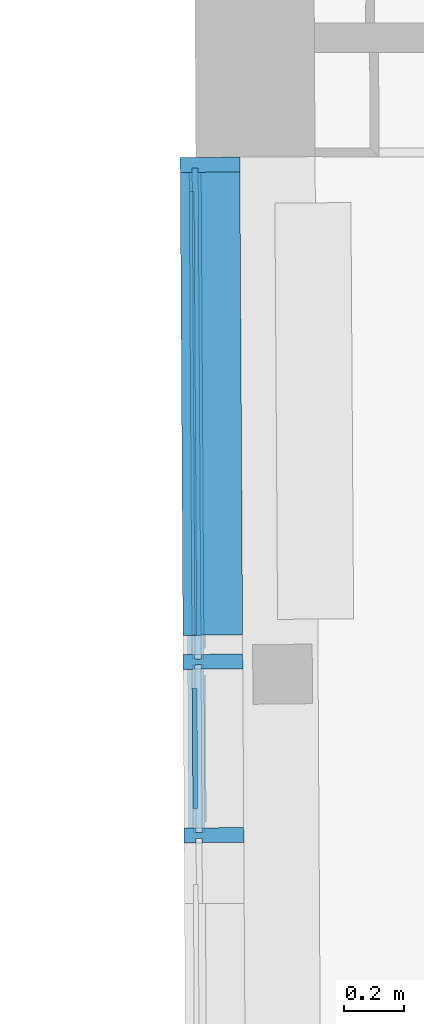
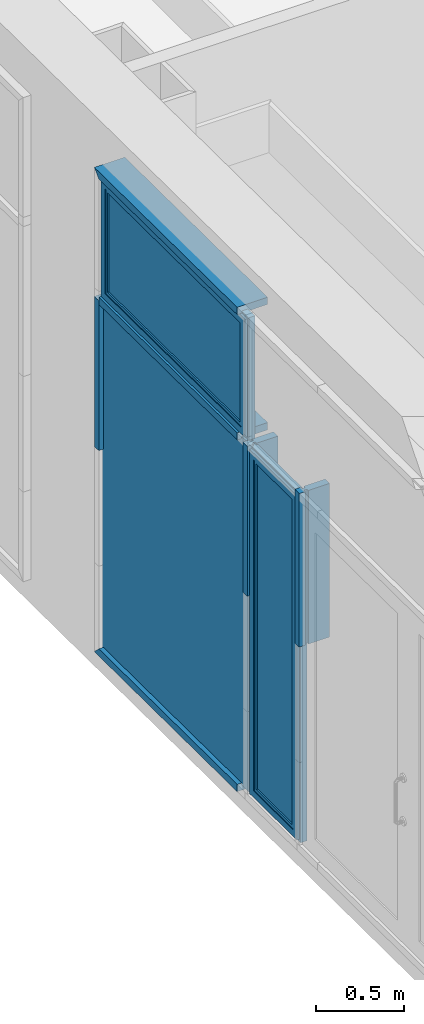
# One storey, part 123 of 196: 11 building element parts, 1 element without a shape of its own.
"""IFC2X3 building model written with IfcOpenShell, lengths in metres."""

from ifc_helpers import new_model, entity, si_unit, converted_unit, derived_unit, money_unit, direction, frame, origin_with_axes, place, context, subcontext, project, spatial, faceted_brep, material, type_object, element, aggregate, save


model = new_model("IFC2X3")

# Units and contexts
model_context = context("Model", 3, precision=1e-05, world=origin_with_axes(), true_north=direction((0.0, 1.0)))
body_context = subcontext(model_context, "Body", "Model", "MODEL_VIEW")
ifc_project = project(units=[si_unit("LENGTHUNIT", "METRE"), si_unit("AREAUNIT", "SQUARE_METRE"), si_unit("VOLUMEUNIT", "CUBIC_METRE"), converted_unit("PLANEANGLEUNIT", "DEGREE", entity("IfcPlaneAngleMeasure", 0.0174532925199), si_unit("PLANEANGLEUNIT", "RADIAN"), dimensions=[0, 0, 0, 0, 0, 0, 0]), money_unit("EUR"), converted_unit("TIMEUNIT", "Year", entity("IfcTimeMeasure", 31556926.0), si_unit("TIMEUNIT", "SECOND"), dimensions=[0, 0, 1, 0, 0, 0, 0]), si_unit("MASSUNIT", "GRAM", prefix="KILO"), si_unit("THERMODYNAMICTEMPERATUREUNIT", "DEGREE_CELSIUS"), si_unit("LUMINOUSINTENSITYUNIT", "LUMEN"), si_unit("ENERGYUNIT", "JOULE", prefix="MEGA"), derived_unit("THERMALCONDUCTANCEUNIT", [(si_unit("POWERUNIT", "WATT"), 1), (si_unit("LENGTHUNIT", "METRE"), -1), (si_unit("THERMODYNAMICTEMPERATUREUNIT", "KELVIN"), -1)]), derived_unit("SPECIFICHEATCAPACITYUNIT", [(si_unit("ENERGYUNIT", "JOULE"), 1), (si_unit("MASSUNIT", "GRAM", prefix="KILO"), -1), (si_unit("THERMODYNAMICTEMPERATUREUNIT", "KELVIN"), -1)]), derived_unit("MASSDENSITYUNIT", [(si_unit("MASSUNIT", "GRAM", prefix="KILO"), 1), (si_unit("VOLUMEUNIT", "CUBIC_METRE"), -1)])], contexts=[model_context])

# Site, building, storey
site_placement = place(None, origin_with_axes())
site = spatial("IfcSite", under=ifc_project, at=site_placement, Name="Gelände", CompositionType="ELEMENT")
building_placement = place(site_placement, origin_with_axes())
building = spatial("IfcBuilding", under=site, at=building_placement, Name="Gebäude", CompositionType="ELEMENT")
storey_placement = place(building_placement, frame((0.0, 0.0, -3.0), z_axis=(0.0, 0.0, 1.0), x_axis=(1.0, 0.0, 0.0)))
storey = spatial("IfcBuildingStorey", under=building, at=storey_placement, Name="KELLERGESCHOSS", CompositionType="ELEMENT", Elevation=-3.0)

# Proxy, building element parts
building_element_proxy_type = type_object("IfcBuildingElementProxyType", Name="Fassadentyp", PredefinedType="NOTDEFINED")
proxy_placement = place(storey_placement, frame((-34.8766751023, 40.9954775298, 0.421025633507), z_axis=(0.0, 0.0, 1.0), x_axis=(1.0, 0.0, 0.0)))
proxy = element("IfcBuildingElementProxy", 1, at=proxy_placement, inside=storey, type_object=building_element_proxy_type, Name="Fassade-002")
ifc_material_1 = material(Name="53_Metall, Aluminium")
building_element_part_1_placement = place(proxy_placement, origin_with_axes())
building_element_part_1 = element("IfcBuildingElementPart", 2, at=building_element_part_1_placement, material=ifc_material_1, Name="53_Metall, Aluminium", context=body_context, shape_type="Brep", body=[
    faceted_brep([(-0.0510996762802, 3.59758008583, 2.48264331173), (-0.0416166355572, 1.98064377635, 2.48264331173), (-0.0466165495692, 1.98061445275, 2.48264331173), (-0.0560995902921, 3.59755076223, 2.48264331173), (-0.0508357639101, 3.55258085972, 2.52764331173), (-0.0418805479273, 2.02564300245, 2.52764331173), (-0.0468804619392, 2.02561367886, 2.52764331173), (-0.055835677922, 3.55255153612, 2.52764331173)], [[[0, 1, 2, 3]], [[0, 4, 5, 1]], [[1, 5, 6, 2]], [[3, 2, 6, 7]], [[4, 0, 3, 7]], [[5, 4, 7, 6]]]),
    faceted_brep([(-0.0416166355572, 1.98064377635, 2.48264331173), (-0.0416166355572, 1.98064377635, 3.29999988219), (-0.0466165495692, 1.98061445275, 3.29999988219), (-0.0466165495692, 1.98061445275, 2.48264331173), (-0.0418805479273, 2.02564300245, 2.52764331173), (-0.0418805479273, 2.02564300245, 3.25499988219), (-0.0468804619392, 2.02561367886, 3.25499988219), (-0.0468804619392, 2.02561367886, 2.52764331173)], [[[0, 1, 2, 3]], [[0, 4, 5, 1]], [[1, 5, 6, 2]], [[3, 2, 6, 7]], [[4, 0, 3, 7]], [[5, 4, 7, 6]]]),
    faceted_brep([(-0.0510996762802, 3.59758008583, 3.29999988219), (-0.0508357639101, 3.55258085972, 3.25499988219), (-0.055835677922, 3.55255153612, 3.25499988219), (-0.0560995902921, 3.59755076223, 3.29999988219), (-0.0416166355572, 1.98064377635, 3.29999988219), (-0.0418805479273, 2.02564300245, 3.25499988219), (-0.0468804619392, 2.02561367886, 3.25499988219), (-0.0466165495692, 1.98061445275, 3.29999988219)], [[[0, 1, 2, 3]], [[0, 4, 5, 1]], [[1, 5, 6, 2]], [[3, 2, 6, 7]], [[4, 0, 3, 7]], [[5, 4, 7, 6]]]),
    faceted_brep([(-0.0510996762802, 3.59758008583, 2.48264331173), (-0.0508357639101, 3.55258085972, 2.52764331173), (-0.055835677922, 3.55255153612, 2.52764331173), (-0.0560995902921, 3.59755076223, 2.48264331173), (-0.0510996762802, 3.59758008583, 3.29999988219), (-0.0508357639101, 3.55258085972, 3.25499988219), (-0.055835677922, 3.55255153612, 3.25499988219), (-0.0560995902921, 3.59755076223, 3.29999988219)], [[[0, 1, 2, 3]], [[0, 4, 5, 1]], [[1, 5, 6, 2]], [[3, 2, 6, 7]], [[4, 0, 3, 7]], [[5, 4, 7, 6]]]),
    faceted_brep([(-0.00110053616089, 3.59787332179, 2.48264331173), (0.00838250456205, 1.98093701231, 2.48264331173), (-0.0416166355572, 1.98064377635, 2.48264331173), (-0.0510996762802, 3.59758008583, 2.48264331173), (-0.000983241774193, 3.57787366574, 2.50264331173), (0.00826521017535, 2.00093666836, 2.50264331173), (-0.0417339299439, 2.00064343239, 2.50264331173), (-0.0509823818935, 3.57758042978, 2.50264331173)], [[[0, 1, 2, 3]], [[0, 4, 5, 1]], [[1, 5, 6, 2]], [[3, 2, 6, 7]], [[4, 0, 3, 7]], [[5, 4, 7, 6]]]),
    faceted_brep([(0.00838250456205, 1.98093701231, 2.48264331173), (0.00838250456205, 1.98093701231, 3.29999988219), (-0.0416166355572, 1.98064377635, 3.29999988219), (-0.0416166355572, 1.98064377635, 2.48264331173), (0.00826521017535, 2.00093666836, 2.50264331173), (0.00826521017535, 2.00093666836, 3.27999988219), (-0.0417339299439, 2.00064343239, 3.27999988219), (-0.0417339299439, 2.00064343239, 2.50264331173)], [[[0, 1, 2, 3]], [[0, 4, 5, 1]], [[1, 5, 6, 2]], [[3, 2, 6, 7]], [[4, 0, 3, 7]], [[5, 4, 7, 6]]]),
    faceted_brep([(-0.00110053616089, 3.59787332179, 3.29999988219), (-0.000983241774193, 3.57787366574, 3.27999988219), (-0.0509823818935, 3.57758042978, 3.27999988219), (-0.0510996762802, 3.59758008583, 3.29999988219), (0.00838250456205, 1.98093701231, 3.29999988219), (0.00826521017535, 2.00093666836, 3.27999988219), (-0.0417339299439, 2.00064343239, 3.27999988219), (-0.0416166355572, 1.98064377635, 3.29999988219)], [[[0, 1, 2, 3]], [[0, 4, 5, 1]], [[1, 5, 6, 2]], [[3, 2, 6, 7]], [[4, 0, 3, 7]], [[5, 4, 7, 6]]]),
    faceted_brep([(-0.00110053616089, 3.59787332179, 2.48264331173), (-0.000983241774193, 3.57787366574, 2.50264331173), (-0.0509823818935, 3.57758042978, 2.50264331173), (-0.0510996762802, 3.59758008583, 2.48264331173), (-0.00110053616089, 3.59787332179, 3.29999988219), (-0.000983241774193, 3.57787366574, 3.27999988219), (-0.0509823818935, 3.57758042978, 3.27999988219), (-0.0510996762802, 3.59758008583, 3.29999988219)], [[[0, 1, 2, 3]], [[0, 4, 5, 1]], [[1, 5, 6, 2]], [[3, 2, 6, 7]], [[4, 0, 3, 7]], [[5, 4, 7, 6]]]),
    faceted_brep([(-0.00118850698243, 3.6128730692, 2.46764333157), (0.00847047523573, 1.96593729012, 2.46764333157), (-0.0315288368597, 1.96570270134, 2.46764333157), (-0.0411878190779, 3.61263848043, 2.46764333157), (-0.00110053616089, 3.59787332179, 2.48264331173), (0.00838250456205, 1.98093701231, 2.48264331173), (-0.0316168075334, 1.98070242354, 2.48264331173), (-0.0410998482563, 3.59763873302, 2.48264331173)], [[[0, 1, 2, 3]], [[0, 4, 5, 1]], [[1, 5, 6, 2]], [[3, 2, 6, 7]], [[4, 0, 3, 7]], [[5, 4, 7, 6]]]),
    faceted_brep([(0.00847047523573, 1.96593729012, 2.46764333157), (0.00847047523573, 1.96593729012, 3.31499988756), (-0.0315288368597, 1.96570270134, 3.31499988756), (-0.0315288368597, 1.96570270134, 2.46764333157), (0.00838250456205, 1.98093701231, 2.48264331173), (0.00838250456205, 1.98093701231, 3.29999988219), (-0.0316168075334, 1.98070242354, 3.29999988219), (-0.0316168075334, 1.98070242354, 2.48264331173)], [[[0, 1, 2, 3]], [[0, 4, 5, 1]], [[1, 5, 6, 2]], [[3, 2, 6, 7]], [[4, 0, 3, 7]], [[5, 4, 7, 6]]]),
    faceted_brep([(0.00847047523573, 1.96593729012, 3.31499988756), (-0.00118850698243, 3.6128730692, 3.31499988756), (-0.0411878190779, 3.61263848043, 3.31499988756), (-0.0315288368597, 1.96570270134, 3.31499988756), (0.00838250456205, 1.98093701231, 3.29999988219), (-0.00110053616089, 3.59787332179, 3.29999988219), (-0.0410998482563, 3.59763873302, 3.29999988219), (-0.0316168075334, 1.98070242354, 3.29999988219)], [[[0, 1, 2, 3]], [[0, 4, 5, 1]], [[1, 5, 6, 2]], [[3, 2, 6, 7]], [[4, 0, 3, 7]], [[5, 4, 7, 6]]]),
    faceted_brep([(-0.00118850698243, 3.6128730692, 3.31499988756), (-0.00118850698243, 3.6128730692, 2.46764333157), (-0.0411878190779, 3.61263848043, 2.46764333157), (-0.0411878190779, 3.61263848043, 3.31499988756), (-0.00110053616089, 3.59787332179, 3.29999988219), (-0.00110053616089, 3.59787332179, 2.48264331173), (-0.0410998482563, 3.59763873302, 2.48264331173), (-0.0410998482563, 3.59763873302, 3.29999988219)], [[[0, 1, 2, 3]], [[0, 4, 5, 1]], [[1, 5, 6, 2]], [[3, 2, 6, 7]], [[4, 0, 3, 7]], [[5, 4, 7, 6]]]),
    faceted_brep([(-0.0507184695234, 3.53258120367, 2.54764331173), (0.0042805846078, 3.53290376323, 2.54764331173), (0.0042805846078, 3.53290376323, 3.23499988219), (-0.0507184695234, 3.53258120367, 3.23499988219), (-0.0509823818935, 3.57758042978, 2.50264331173), (0.00401667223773, 3.57790298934, 2.50264331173), (0.00401667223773, 3.57790298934, 3.27999988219), (-0.0509823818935, 3.57758042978, 3.27999988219)], [[[0, 1, 2, 3]], [[4, 5, 1, 0]], [[1, 5, 6, 2]], [[3, 2, 6, 7]], [[0, 3, 7, 4]], [[7, 6, 5, 4]]]),
    faceted_brep([(-0.0417339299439, 2.00064343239, 2.50264331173), (0.0132651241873, 2.00096599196, 2.50264331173), (0.0132651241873, 2.00096599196, 3.27999988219), (-0.0417339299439, 2.00064343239, 3.27999988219), (-0.041997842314, 2.0456426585, 2.54764331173), (0.0130012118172, 2.04596521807, 2.54764331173), (0.0130012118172, 2.04596521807, 3.23499988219), (-0.041997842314, 2.0456426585, 3.23499988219)], [[[0, 1, 2, 3]], [[4, 5, 1, 0]], [[1, 5, 6, 2]], [[3, 2, 6, 7]], [[0, 3, 7, 4]], [[7, 6, 5, 4]]]),
    faceted_brep([(-0.0417339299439, 2.00064343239, 2.50264331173), (0.0132651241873, 2.00096599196, 2.50264331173), (0.0130012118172, 2.04596521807, 2.54764331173), (-0.041997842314, 2.0456426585, 2.54764331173), (-0.0509823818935, 3.57758042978, 2.50264331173), (0.00401667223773, 3.57790298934, 2.50264331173), (0.0042805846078, 3.53290376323, 2.54764331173), (-0.0507184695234, 3.53258120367, 2.54764331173)], [[[0, 1, 2, 3]], [[4, 5, 1, 0]], [[1, 5, 6, 2]], [[3, 2, 6, 7]], [[0, 3, 7, 4]], [[7, 6, 5, 4]]]),
    faceted_brep([(-0.0509823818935, 3.57758042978, 3.27999988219), (0.00401667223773, 3.57790298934, 3.27999988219), (0.0042805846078, 3.53290376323, 3.23499988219), (-0.0507184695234, 3.53258120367, 3.23499988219), (-0.0417339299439, 2.00064343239, 3.27999988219), (0.0132651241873, 2.00096599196, 3.27999988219), (0.0130012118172, 2.04596521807, 3.23499988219), (-0.041997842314, 2.0456426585, 3.23499988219)], [[[0, 1, 2, 3]], [[4, 5, 1, 0]], [[1, 5, 6, 2]], [[3, 2, 6, 7]], [[0, 3, 7, 4]], [[7, 6, 5, 4]]]),
])
ifc_material_2 = material(Name="45_Glas, Normalglas")
building_element_part_2_placement = place(proxy_placement, origin_with_axes())
building_element_part_2 = element("IfcBuildingElementPart", 3, at=building_element_part_2_placement, material=ifc_material_2, Name="45_Glas, Normalglas", context=body_context, shape_type="Brep", body=[
    faceted_brep([(-0.0407186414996, 3.53263985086, 2.54764331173), (-0.0247189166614, 3.53273368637, 2.54764331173), (-0.015998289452, 2.0457951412, 2.54764331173), (-0.0319980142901, 2.0457013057, 2.54764331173), (-0.0407186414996, 3.53263985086, 3.23499988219), (-0.0247189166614, 3.53273368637, 3.23499988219), (-0.015998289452, 2.0457951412, 3.23499988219), (-0.0319980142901, 2.0457013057, 3.23499988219)], [[[0, 1, 2, 3]], [[4, 5, 1, 0]], [[1, 5, 6, 2]], [[3, 2, 6, 7]], [[0, 3, 7, 4]], [[7, 6, 5, 4]]]),
])
building_element_part_3_placement = place(proxy_placement, origin_with_axes())
building_element_part_3 = element("IfcBuildingElementPart", 4, at=building_element_part_3_placement, material=ifc_material_2, Name="45_Glas, Normalglas", context=body_context, shape_type="Brep", body=[
    faceted_brep([(0.00847047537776, 1.9659372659, 2.44764332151), (0.00800774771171, 2.04483613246, 2.44764332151), (-0.0319915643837, 2.04460154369, 2.44764332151), (-0.0315288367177, 1.96570267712, 2.44764332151), (0.00847047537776, 1.9659372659, 1.41999997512), (0.00847047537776, 1.9659372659, 0.619999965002), (0.00847047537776, 1.9659372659, 0.0349999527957), (0.00800774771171, 2.04483613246, 0.0349999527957), (-0.00118850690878, 3.61287305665, 0.0349999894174), (-0.00118850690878, 3.61287305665, 0.619999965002), (-0.00118850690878, 3.61287305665, 1.41999997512), (-0.00118850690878, 3.61287305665, 2.44764332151), (-0.0411878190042, 3.61263846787, 2.44764332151), (-0.0411878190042, 3.61263846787, 1.41999997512), (-0.0411878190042, 3.61263846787, 0.619999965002), (-0.0411878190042, 3.61263846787, 0.0349999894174), (-0.0319915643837, 2.04460154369, 0.0349999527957), (-0.0315288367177, 1.96570267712, 0.0349999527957), (-0.0315288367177, 1.96570267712, 0.619999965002), (-0.0315288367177, 1.96570267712, 1.41999997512)], [[[0, 1, 2, 3]], [[0, 4, 5, 6, 7, 8, 9, 10, 11, 1]], [[1, 11, 12, 2]], [[3, 2, 12, 13, 14, 15, 16, 17, 18, 19]], [[4, 0, 3, 19]], [[5, 4, 19, 18]], [[6, 5, 18, 17]], [[7, 6, 17, 16]], [[8, 7, 16, 15]], [[9, 8, 15, 14]], [[10, 9, 14, 13]], [[11, 10, 13, 12]]]),
])
building_element_part_4_placement = place(proxy_placement, origin_with_axes())
building_element_part_4 = element("IfcBuildingElementPart", 5, at=building_element_part_4_placement, material=ifc_material_1, Name="53_Metall, Aluminium", context=body_context, shape_type="Brep", body=[
    faceted_brep([(-0.0413233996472, 1.93064464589, 0.0499999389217), (-0.0382022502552, 1.39846304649, 0.0499999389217), (-0.0432021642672, 1.39843372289, 0.0499999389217), (-0.0463233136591, 1.93061532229, 0.0499999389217), (-0.0410594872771, 1.88564541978, 0.0949999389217), (-0.0384661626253, 1.44346227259, 0.0949999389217), (-0.0434660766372, 1.443432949, 0.0949999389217), (-0.046059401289, 1.88561609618, 0.0949999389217)], [[[0, 1, 2, 3]], [[0, 4, 5, 1]], [[1, 5, 6, 2]], [[3, 2, 6, 7]], [[4, 0, 3, 7]], [[5, 4, 7, 6]]]),
    faceted_brep([(-0.0382022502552, 1.39846304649, 0.0499999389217), (-0.0382022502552, 1.39846304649, 2.43264333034), (-0.0432021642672, 1.39843372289, 2.43264333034), (-0.0432021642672, 1.39843372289, 0.0499999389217), (-0.0384661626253, 1.44346227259, 0.0949999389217), (-0.0384661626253, 1.44346227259, 2.38764333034), (-0.0434660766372, 1.443432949, 2.38764333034), (-0.0434660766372, 1.443432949, 0.0949999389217)], [[[0, 1, 2, 3]], [[0, 4, 5, 1]], [[1, 5, 6, 2]], [[3, 2, 6, 7]], [[4, 0, 3, 7]], [[5, 4, 7, 6]]]),
    faceted_brep([(-0.0413233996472, 1.93064464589, 2.43264333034), (-0.0410594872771, 1.88564541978, 2.38764333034), (-0.046059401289, 1.88561609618, 2.38764333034), (-0.0463233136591, 1.93061532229, 2.43264333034), (-0.0382022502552, 1.39846304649, 2.43264333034), (-0.0384661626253, 1.44346227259, 2.38764333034), (-0.0434660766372, 1.443432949, 2.38764333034), (-0.0432021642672, 1.39843372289, 2.43264333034)], [[[0, 1, 2, 3]], [[0, 4, 5, 1]], [[1, 5, 6, 2]], [[3, 2, 6, 7]], [[4, 0, 3, 7]], [[5, 4, 7, 6]]]),
    faceted_brep([(-0.0413233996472, 1.93064464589, 0.0499999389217), (-0.0410594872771, 1.88564541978, 0.0949999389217), (-0.046059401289, 1.88561609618, 0.0949999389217), (-0.0463233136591, 1.93061532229, 0.0499999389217), (-0.0413233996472, 1.93064464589, 2.43264333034), (-0.0410594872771, 1.88564541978, 2.38764333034), (-0.046059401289, 1.88561609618, 2.38764333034), (-0.0463233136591, 1.93061532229, 2.43264333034)], [[[0, 1, 2, 3]], [[0, 4, 5, 1]], [[1, 5, 6, 2]], [[3, 2, 6, 7]], [[4, 0, 3, 7]], [[5, 4, 7, 6]]]),
    faceted_brep([(0.00867574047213, 1.93093788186, 0.0499999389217), (0.0117968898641, 1.39875628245, 0.0499999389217), (-0.0382022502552, 1.39846304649, 0.0499999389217), (-0.0413233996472, 1.93064464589, 0.0499999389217), (0.00879303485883, 1.91093822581, 0.0699999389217), (0.0116795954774, 1.4187559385, 0.0699999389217), (-0.0383195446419, 1.41846270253, 0.0699999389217), (-0.0412061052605, 1.91064498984, 0.0699999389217)], [[[0, 1, 2, 3]], [[0, 4, 5, 1]], [[1, 5, 6, 2]], [[3, 2, 6, 7]], [[4, 0, 3, 7]], [[5, 4, 7, 6]]]),
    faceted_brep([(0.0117968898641, 1.39875628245, 0.0499999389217), (0.0117968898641, 1.39875628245, 2.43264333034), (-0.0382022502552, 1.39846304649, 2.43264333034), (-0.0382022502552, 1.39846304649, 0.0499999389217), (0.0116795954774, 1.4187559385, 0.0699999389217), (0.0116795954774, 1.4187559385, 2.41264333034), (-0.0383195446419, 1.41846270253, 2.41264333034), (-0.0383195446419, 1.41846270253, 0.0699999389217)], [[[0, 1, 2, 3]], [[0, 4, 5, 1]], [[1, 5, 6, 2]], [[3, 2, 6, 7]], [[4, 0, 3, 7]], [[5, 4, 7, 6]]]),
    faceted_brep([(0.00867574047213, 1.93093788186, 2.43264333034), (0.00879303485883, 1.91093822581, 2.41264333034), (-0.0412061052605, 1.91064498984, 2.41264333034), (-0.0413233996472, 1.93064464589, 2.43264333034), (0.0117968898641, 1.39875628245, 2.43264333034), (0.0116795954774, 1.4187559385, 2.41264333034), (-0.0383195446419, 1.41846270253, 2.41264333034), (-0.0382022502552, 1.39846304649, 2.43264333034)], [[[0, 1, 2, 3]], [[0, 4, 5, 1]], [[1, 5, 6, 2]], [[3, 2, 6, 7]], [[4, 0, 3, 7]], [[5, 4, 7, 6]]]),
    faceted_brep([(0.00867574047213, 1.93093788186, 0.0499999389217), (0.00879303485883, 1.91093822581, 0.0699999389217), (-0.0412061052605, 1.91064498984, 0.0699999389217), (-0.0413233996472, 1.93064464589, 0.0499999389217), (0.00867574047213, 1.93093788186, 2.43264333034), (0.00879303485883, 1.91093822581, 2.41264333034), (-0.0412061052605, 1.91064498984, 2.41264333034), (-0.0413233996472, 1.93064464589, 2.43264333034)], [[[0, 1, 2, 3]], [[0, 4, 5, 1]], [[1, 5, 6, 2]], [[3, 2, 6, 7]], [[4, 0, 3, 7]], [[5, 4, 7, 6]]]),
    faceted_brep([(0.00858776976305, 1.94593761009, 0.0349999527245), (0.0118848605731, 1.38375655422, 0.0349999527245), (-0.0281144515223, 1.38352196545, 0.0349999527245), (-0.0314115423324, 1.94570302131, 0.0349999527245), (0.00867574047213, 1.93093788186, 0.0499999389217), (0.0117968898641, 1.39875628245, 0.0499999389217), (-0.0282024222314, 1.39852169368, 0.0499999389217), (-0.0313235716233, 1.93070329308, 0.0499999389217)], [[[0, 1, 2, 3]], [[0, 4, 5, 1]], [[1, 5, 6, 2]], [[3, 2, 6, 7]], [[4, 0, 3, 7]], [[5, 4, 7, 6]]]),
    faceted_brep([(0.0118848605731, 1.38375655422, 0.0349999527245), (0.0118848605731, 1.38375655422, 2.44764331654), (-0.0281144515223, 1.38352196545, 2.44764331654), (-0.0281144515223, 1.38352196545, 0.0349999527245), (0.0117968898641, 1.39875628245, 0.0499999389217), (0.0117968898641, 1.39875628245, 2.43264333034), (-0.0282024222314, 1.39852169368, 2.43264333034), (-0.0282024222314, 1.39852169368, 0.0499999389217)], [[[0, 1, 2, 3]], [[0, 4, 5, 1]], [[1, 5, 6, 2]], [[3, 2, 6, 7]], [[4, 0, 3, 7]], [[5, 4, 7, 6]]]),
    faceted_brep([(0.0118848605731, 1.38375655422, 2.44764331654), (0.00858776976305, 1.94593761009, 2.44764331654), (-0.0314115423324, 1.94570302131, 2.44764331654), (-0.0281144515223, 1.38352196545, 2.44764331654), (0.0117968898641, 1.39875628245, 2.43264333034), (0.00867574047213, 1.93093788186, 2.43264333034), (-0.0313235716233, 1.93070329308, 2.43264333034), (-0.0282024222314, 1.39852169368, 2.43264333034)], [[[0, 1, 2, 3]], [[0, 4, 5, 1]], [[1, 5, 6, 2]], [[3, 2, 6, 7]], [[4, 0, 3, 7]], [[5, 4, 7, 6]]]),
    faceted_brep([(0.00858776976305, 1.94593761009, 2.44764331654), (0.00858776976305, 1.94593761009, 0.0349999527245), (-0.0314115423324, 1.94570302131, 0.0349999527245), (-0.0314115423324, 1.94570302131, 2.44764331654), (0.00867574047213, 1.93093788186, 2.43264333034), (0.00867574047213, 1.93093788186, 0.0499999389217), (-0.0313235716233, 1.93070329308, 0.0499999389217), (-0.0313235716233, 1.93070329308, 2.43264333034)], [[[0, 1, 2, 3]], [[0, 4, 5, 1]], [[1, 5, 6, 2]], [[3, 2, 6, 7]], [[4, 0, 3, 7]], [[5, 4, 7, 6]]]),
    faceted_brep([(-0.0409421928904, 1.86564576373, 0.114999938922), (0.0140568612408, 1.8659683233, 0.114999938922), (0.0140568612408, 1.8659683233, 2.36764333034), (-0.0409421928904, 1.86564576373, 2.36764333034), (-0.0412061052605, 1.91064498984, 0.0699999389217), (0.0137929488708, 1.9109675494, 0.0699999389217), (0.0137929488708, 1.9109675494, 2.41264333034), (-0.0412061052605, 1.91064498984, 2.41264333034)], [[[0, 1, 2, 3]], [[4, 5, 1, 0]], [[1, 5, 6, 2]], [[3, 2, 6, 7]], [[0, 3, 7, 4]], [[7, 6, 5, 4]]]),
    faceted_brep([(-0.0383195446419, 1.41846270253, 0.0699999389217), (0.0166795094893, 1.4187852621, 0.0699999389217), (0.0166795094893, 1.4187852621, 2.41264333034), (-0.0383195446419, 1.41846270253, 2.41264333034), (-0.038583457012, 1.46346192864, 0.114999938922), (0.0164155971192, 1.46378448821, 0.114999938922), (0.0164155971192, 1.46378448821, 2.36764333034), (-0.038583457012, 1.46346192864, 2.36764333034)], [[[0, 1, 2, 3]], [[4, 5, 1, 0]], [[1, 5, 6, 2]], [[3, 2, 6, 7]], [[0, 3, 7, 4]], [[7, 6, 5, 4]]]),
    faceted_brep([(-0.0383195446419, 1.41846270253, 0.0699999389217), (0.0166795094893, 1.4187852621, 0.0699999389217), (0.0164155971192, 1.46378448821, 0.114999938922), (-0.038583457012, 1.46346192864, 0.114999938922), (-0.0412061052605, 1.91064498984, 0.0699999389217), (0.0137929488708, 1.9109675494, 0.0699999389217), (0.0140568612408, 1.8659683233, 0.114999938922), (-0.0409421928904, 1.86564576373, 0.114999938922)], [[[0, 1, 2, 3]], [[4, 5, 1, 0]], [[1, 5, 6, 2]], [[3, 2, 6, 7]], [[0, 3, 7, 4]], [[7, 6, 5, 4]]]),
    faceted_brep([(-0.0412061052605, 1.91064498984, 2.41264333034), (0.0137929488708, 1.9109675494, 2.41264333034), (0.0140568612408, 1.8659683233, 2.36764333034), (-0.0409421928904, 1.86564576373, 2.36764333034), (-0.0383195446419, 1.41846270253, 2.41264333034), (0.0166795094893, 1.4187852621, 2.41264333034), (0.0164155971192, 1.46378448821, 2.36764333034), (-0.038583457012, 1.46346192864, 2.36764333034)], [[[0, 1, 2, 3]], [[4, 5, 1, 0]], [[1, 5, 6, 2]], [[3, 2, 6, 7]], [[0, 3, 7, 4]], [[7, 6, 5, 4]]]),
])
building_element_part_5_placement = place(proxy_placement, origin_with_axes())
building_element_part_5 = element("IfcBuildingElementPart", 6, at=building_element_part_5_placement, material=ifc_material_2, Name="45_Glas, Normalglas", context=body_context, shape_type="Brep", body=[
    faceted_brep([(-0.0309423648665, 1.86570441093, 0.114999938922), (-0.0149426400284, 1.86579824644, 0.114999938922), (-0.01258390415, 1.46361441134, 0.114999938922), (-0.0285836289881, 1.46352057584, 0.114999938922), (-0.0309423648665, 1.86570441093, 2.36764333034), (-0.0149426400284, 1.86579824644, 2.36764333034), (-0.01258390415, 1.46361441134, 2.36764333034), (-0.0285836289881, 1.46352057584, 2.36764333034)], [[[0, 1, 2, 3]], [[4, 5, 1, 0]], [[1, 5, 6, 2]], [[3, 2, 6, 7]], [[0, 3, 7, 4]], [[7, 6, 5, 4]]]),
])
building_element_part_6_placement = place(proxy_placement, origin_with_axes())
building_element_part_6 = element("IfcBuildingElementPart", 7, at=building_element_part_6_placement, material=ifc_material_1, Name="53_Metall, Aluminium", context=body_context, shape_type="Brep", body=[
    faceted_brep([(0.00200232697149, 1.36369824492, 2.48264332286), (0.00209029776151, 1.34869850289, 2.48264332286), (0.142087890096, 1.34951956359, 2.48264332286), (0.141794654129, 1.39951870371, 2.48264332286), (0.00179706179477, 1.39869764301, 2.48264332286), (0.00188503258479, 1.38369790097, 2.48264332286), (-0.0181146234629, 1.38358060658, 2.48264332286), (-0.0182025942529, 1.39858034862, 2.48264332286), (-0.0582019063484, 1.39834575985, 2.48264332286), (-0.0579086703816, 1.34834661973, 2.48264332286), (-0.0179093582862, 1.3485812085, 2.48264332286), (-0.0179973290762, 1.36358095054, 2.48264332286), (0.00200232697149, 1.36369824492, 1.41999997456), (0.00209029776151, 1.34869850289, 1.41999997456), (0.142087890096, 1.34951956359, 1.41999997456), (0.141794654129, 1.39951870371, 1.41999997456), (0.00179706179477, 1.39869764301, 1.41999997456), (0.00188503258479, 1.38369790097, 1.41999997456), (-0.0181146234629, 1.38358060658, 1.41999997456), (-0.0182025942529, 1.39858034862, 1.41999997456), (-0.0582019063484, 1.39834575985, 1.41999997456), (-0.0579086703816, 1.34834661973, 1.41999997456), (-0.0179093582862, 1.3485812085, 1.41999997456), (-0.0179973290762, 1.36358095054, 1.41999997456)], [[[0, 1, 2, 3, 4, 5, 6, 7, 8, 9, 10, 11]], [[1, 0, 12, 13]], [[1, 13, 14, 2]], [[3, 2, 14, 15]], [[4, 3, 15, 16]], [[4, 16, 17, 5]], [[5, 17, 18, 6]], [[7, 6, 18, 19]], [[19, 20, 8, 7]], [[9, 8, 20, 21]], [[22, 10, 9, 21]], [[11, 10, 22, 23]], [[0, 11, 23, 12]], [[23, 22, 21, 20, 19, 18, 17, 16, 15, 14, 13, 12]]]),
])
building_element_part_7_placement = place(proxy_placement, origin_with_axes())
building_element_part_7 = element("IfcBuildingElementPart", 8, at=building_element_part_7_placement, material=ifc_material_1, Name="53_Metall, Aluminium", context=body_context, shape_type="Brep", body=[
    faceted_brep([(-0.0111883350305, 3.61281442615, 2.45764332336), (-0.0111003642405, 3.59781468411, 2.45764332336), (0.128897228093, 3.59863574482, 2.45764332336), (0.128603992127, 3.64863488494, 2.45764332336), (-0.0713925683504, 3.64746194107, 2.45764332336), (-0.0710993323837, 3.59746280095, 2.45764332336), (-0.0311000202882, 3.59769738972, 2.45764332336), (-0.0311879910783, 3.61269713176, 2.45764332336), (-0.0111883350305, 3.61281442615, 1.41999997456), (-0.0111003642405, 3.59781468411, 1.41999997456), (0.128897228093, 3.59863574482, 1.41999997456), (0.128603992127, 3.64863488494, 1.41999997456), (-0.0713925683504, 3.64746194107, 1.41999997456), (-0.0710993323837, 3.59746280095, 1.41999997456), (-0.0311000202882, 3.59769738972, 1.41999997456), (-0.0311879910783, 3.61269713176, 1.41999997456)], [[[0, 1, 2, 3, 4, 5, 6, 7]], [[0, 8, 9, 1]], [[9, 10, 2, 1]], [[10, 11, 3, 2]], [[11, 12, 4, 3]], [[12, 13, 5, 4]], [[6, 5, 13, 14]], [[14, 15, 7, 6]], [[7, 15, 8, 0]], [[8, 15, 14, 13, 12, 11, 10, 9]]]),
])
building_element_part_8_placement = place(proxy_placement, origin_with_axes())
building_element_part_8 = element("IfcBuildingElementPart", 9, at=building_element_part_8_placement, material=ifc_material_1, Name="53_Metall, Aluminium", context=body_context, shape_type="Brep", body=[
    faceted_brep([(-0.00141205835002, 1.94587897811, 2.45764332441), (-0.00132408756, 1.93087923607, 2.45764332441), (0.138673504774, 1.93170029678, 2.45764332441), (0.138380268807, 1.9816994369, 2.45764332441), (-0.00161732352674, 1.98087837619, 2.45764332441), (-0.00152935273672, 1.96587863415, 2.45764332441), (-0.0215290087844, 1.96576133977, 2.45764332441), (-0.0216169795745, 1.9807610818, 2.45764332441), (-0.0616162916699, 1.98052649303, 2.45764332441), (-0.0613230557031, 1.93052735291, 2.45764332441), (-0.0213237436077, 1.93076194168, 2.45764332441), (-0.0214117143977, 1.94576168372, 2.45764332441), (-0.00141205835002, 1.94587897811, 1.41999997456), (-0.00132408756, 1.93087923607, 1.41999997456), (0.138673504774, 1.93170029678, 1.41999997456), (0.138380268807, 1.9816994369, 1.41999997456), (-0.00161732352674, 1.98087837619, 1.41999997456), (-0.00152935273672, 1.96587863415, 1.41999997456), (-0.0215290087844, 1.96576133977, 1.41999997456), (-0.0216169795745, 1.9807610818, 1.41999997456), (-0.0616162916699, 1.98052649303, 1.41999997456), (-0.0613230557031, 1.93052735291, 1.41999997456), (-0.0213237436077, 1.93076194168, 1.41999997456), (-0.0214117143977, 1.94576168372, 1.41999997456)], [[[0, 1, 2, 3, 4, 5, 6, 7, 8, 9, 10, 11]], [[1, 0, 12, 13]], [[1, 13, 14, 2]], [[3, 2, 14, 15]], [[4, 3, 15, 16]], [[4, 16, 17, 5]], [[5, 17, 18, 6]], [[7, 6, 18, 19]], [[19, 20, 8, 7]], [[9, 8, 20, 21]], [[22, 10, 9, 21]], [[11, 10, 22, 23]], [[0, 11, 23, 12]], [[23, 22, 21, 20, 19, 18, 17, 16, 15, 14, 13, 12]]]),
])
building_element_part_9_placement = place(proxy_placement, origin_with_axes())
building_element_part_9 = element("IfcBuildingElementPart", 10, at=building_element_part_9_placement, material=ifc_material_1, Name="53_Metall, Aluminium", context=body_context, shape_type="Brep", body=[
    faceted_brep([(-0.00199208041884, 2.04477750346, 3.314999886), (-0.00199208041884, 2.04477750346, 3.299999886), (0.138005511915, 2.04559856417, 3.299999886), (0.138005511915, 2.04559856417, 3.349999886), (-0.061991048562, 2.0444256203, 3.349999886), (-0.061991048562, 2.0444256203, 3.299999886), (-0.0219917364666, 2.04466020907, 3.299999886), (-0.0219917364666, 2.04466020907, 3.314999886), (-0.0111883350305, 3.61281442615, 3.314999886), (-0.0111003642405, 3.59781468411, 3.299999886), (0.128897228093, 3.59863574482, 3.299999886), (0.128603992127, 3.64863488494, 3.349999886), (-0.0713925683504, 3.64746194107, 3.349999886), (-0.0710993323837, 3.59746280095, 3.299999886), (-0.0311000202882, 3.59769738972, 3.299999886), (-0.0311879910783, 3.61269713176, 3.314999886)], [[[0, 1, 2, 3, 4, 5, 6, 7]], [[0, 8, 9, 1]], [[9, 10, 2, 1]], [[2, 10, 11, 3]], [[3, 11, 12, 4]], [[4, 12, 13, 5]], [[6, 5, 13, 14]], [[14, 15, 7, 6]], [[7, 15, 8, 0]], [[8, 15, 14, 13, 12, 11, 10, 9]]]),
])
building_element_part_10_placement = place(proxy_placement, origin_with_axes())
building_element_part_10 = element("IfcBuildingElementPart", 11, at=building_element_part_10_placement, material=ifc_material_1, Name="53_Metall, Aluminium", context=body_context, shape_type="Brep", body=[
    faceted_brep([(-0.00199208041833, 2.04477750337, 0.035), (-0.021991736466, 2.04466020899, 0.035), (-0.021991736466, 2.04466020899, 0.05), (-0.0619910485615, 2.04442562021, 0.05), (-0.0619910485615, 2.04442562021, 0.0), (0.138005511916, 2.04559856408, 0.0), (0.138005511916, 2.04559856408, 0.05), (-0.00199208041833, 2.04477750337, 0.05), (-0.0111883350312, 3.61281442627, 0.035), (-0.031187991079, 3.61269713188, 0.035), (-0.0311000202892, 3.59769738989, 0.05), (-0.0710993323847, 3.59746280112, 0.05), (-0.0713925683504, 3.64746194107, 0.0), (0.128603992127, 3.64863488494, 0.0), (0.128897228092, 3.59863574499, 0.05), (-0.0111003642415, 3.59781468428, 0.05)], [[[0, 1, 2, 3, 4, 5, 6, 7]], [[1, 0, 8, 9]], [[10, 2, 1, 9]], [[2, 10, 11, 3]], [[4, 3, 11, 12]], [[5, 4, 12, 13]], [[6, 5, 13, 14]], [[15, 7, 6, 14]], [[0, 7, 15, 8]], [[8, 15, 14, 13, 12, 11, 10, 9]]]),
])
building_element_part_11_placement = place(proxy_placement, origin_with_axes())
building_element_part_11 = element("IfcBuildingElementPart", 12, at=building_element_part_11_placement, material=ifc_material_1, Name="53_Metall, Aluminium", context=body_context, shape_type="Brep", body=[
    faceted_brep([(-0.00199208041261, 2.0447775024, 2.44764333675), (-0.00199208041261, 2.0447775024, 2.43264333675), (0.138005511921, 2.0455985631, 2.43264333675), (0.138005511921, 2.0455985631, 2.48264333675), (-0.00199208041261, 2.0447775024, 2.48264333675), (-0.00199208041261, 2.0447775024, 2.46764333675), (-0.0219917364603, 2.04466020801, 2.46764333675), (-0.0219917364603, 2.04466020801, 2.48264333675), (-0.0619910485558, 2.04442561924, 2.48264333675), (-0.0619910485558, 2.04442561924, 2.43264333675), (-0.0219917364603, 2.04466020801, 2.43264333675), (-0.0219917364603, 2.04466020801, 2.44764333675), (-0.0111003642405, 3.59781468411, 2.44764333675), (-0.0111003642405, 3.59781468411, 2.43264333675), (0.128897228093, 3.59863574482, 2.43264333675), (0.128897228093, 3.59863574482, 2.48264333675), (-0.0111003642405, 3.59781468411, 2.48264333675), (-0.0111003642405, 3.59781468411, 2.46764333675), (-0.0311000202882, 3.59769738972, 2.46764333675), (-0.0311000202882, 3.59769738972, 2.48264333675), (-0.0710993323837, 3.59746280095, 2.48264333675), (-0.0710993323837, 3.59746280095, 2.43264333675), (-0.0311000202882, 3.59769738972, 2.43264333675), (-0.0311000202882, 3.59769738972, 2.44764333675)], [[[0, 1, 2, 3, 4, 5, 6, 7, 8, 9, 10, 11]], [[1, 0, 12, 13]], [[1, 13, 14, 2]], [[2, 14, 15, 3]], [[4, 3, 15, 16]], [[4, 16, 17, 5]], [[5, 17, 18, 6]], [[7, 6, 18, 19]], [[19, 20, 8, 7]], [[8, 20, 21, 9]], [[22, 10, 9, 21]], [[11, 10, 22, 23]], [[0, 11, 23, 12]], [[23, 22, 21, 20, 19, 18, 17, 16, 15, 14, 13, 12]]]),
])
aggregate(proxy, [building_element_part_1, building_element_part_2, building_element_part_3, building_element_part_4, building_element_part_5, building_element_part_6, building_element_part_7, building_element_part_8, building_element_part_9, building_element_part_10, building_element_part_11])

save(model, "model.ifc")
